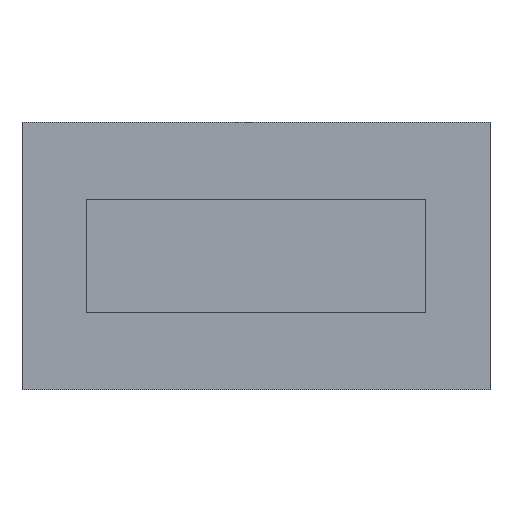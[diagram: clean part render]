
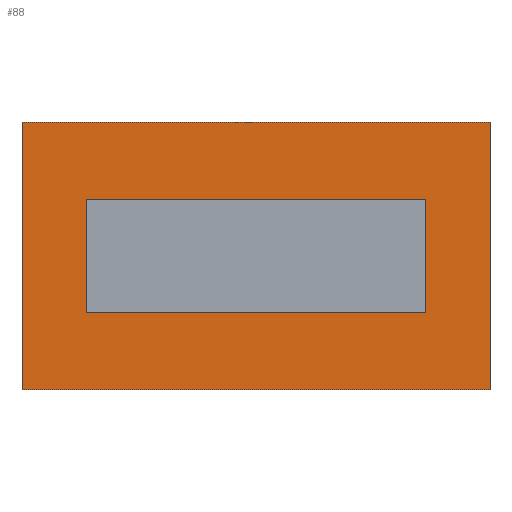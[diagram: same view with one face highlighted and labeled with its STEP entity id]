
A CAD part, top view. The second image highlights one B-rep face of the part: STEP entity #88.
In plain terms, the highlighted planar face has unit normal (0, 0, 1).
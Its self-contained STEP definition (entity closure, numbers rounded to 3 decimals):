
#24 = VERTEX_POINT('',#25);
#25 = CARTESIAN_POINT('',(-17.5,-10.,4.));
#40 = VERTEX_POINT('',#41);
#41 = CARTESIAN_POINT('',(-17.5,10.,4.));
#47 = EDGE_CURVE('',#24,#40,#48,.T.);
#48 = LINE('',#49,#50);
#49 = CARTESIAN_POINT('',(-17.5,-10.,4.));
#50 = VECTOR('',#51,1.);
#51 = DIRECTION('',(0.,1.,0.));
#70 = EDGE_CURVE('',#24,#71,#73,.T.);
#71 = VERTEX_POINT('',#72);
#72 = CARTESIAN_POINT('',(17.5,-10.,4.));
#73 = LINE('',#74,#75);
#74 = CARTESIAN_POINT('',(-17.5,-10.,4.));
#75 = VECTOR('',#76,1.);
#76 = DIRECTION('',(1.,0.,0.));
#88 = ADVANCED_FACE('',(#89,#107),#141,.T.);
#89 = FACE_BOUND('',#90,.T.);
#90 = EDGE_LOOP('',(#91,#92,#93,#101));
#91 = ORIENTED_EDGE('',*,*,#47,.F.);
#92 = ORIENTED_EDGE('',*,*,#70,.T.);
#93 = ORIENTED_EDGE('',*,*,#94,.T.);
#94 = EDGE_CURVE('',#71,#95,#97,.T.);
#95 = VERTEX_POINT('',#96);
#96 = CARTESIAN_POINT('',(17.5,10.,4.));
#97 = LINE('',#98,#99);
#98 = CARTESIAN_POINT('',(17.5,-10.,4.));
#99 = VECTOR('',#100,1.);
#100 = DIRECTION('',(0.,1.,0.));
#101 = ORIENTED_EDGE('',*,*,#102,.F.);
#102 = EDGE_CURVE('',#40,#95,#103,.T.);
#103 = LINE('',#104,#105);
#104 = CARTESIAN_POINT('',(-17.5,10.,4.));
#105 = VECTOR('',#106,1.);
#106 = DIRECTION('',(1.,0.,0.));
#107 = FACE_BOUND('',#108,.T.);
#108 = EDGE_LOOP('',(#109,#119,#127,#135));
#109 = ORIENTED_EDGE('',*,*,#110,.T.);
#110 = EDGE_CURVE('',#111,#113,#115,.T.);
#111 = VERTEX_POINT('',#112);
#112 = CARTESIAN_POINT('',(12.7,-4.2,4.));
#113 = VERTEX_POINT('',#114);
#114 = CARTESIAN_POINT('',(-12.7,-4.2,4.));
#115 = LINE('',#116,#117);
#116 = CARTESIAN_POINT('',(-15.1,-4.2,4.));
#117 = VECTOR('',#118,1.);
#118 = DIRECTION('',(-1.,0.,0.));
#119 = ORIENTED_EDGE('',*,*,#120,.T.);
#120 = EDGE_CURVE('',#113,#121,#123,.T.);
#121 = VERTEX_POINT('',#122);
#122 = CARTESIAN_POINT('',(-12.7,4.2,4.));
#123 = LINE('',#124,#125);
#124 = CARTESIAN_POINT('',(-12.7,-7.1,4.));
#125 = VECTOR('',#126,1.);
#126 = DIRECTION('',(0.,1.,0.));
#127 = ORIENTED_EDGE('',*,*,#128,.F.);
#128 = EDGE_CURVE('',#129,#121,#131,.T.);
#129 = VERTEX_POINT('',#130);
#130 = CARTESIAN_POINT('',(12.7,4.2,4.));
#131 = LINE('',#132,#133);
#132 = CARTESIAN_POINT('',(-15.1,4.2,4.));
#133 = VECTOR('',#134,1.);
#134 = DIRECTION('',(-1.,0.,0.));
#135 = ORIENTED_EDGE('',*,*,#136,.F.);
#136 = EDGE_CURVE('',#111,#129,#137,.T.);
#137 = LINE('',#138,#139);
#138 = CARTESIAN_POINT('',(12.7,-7.1,4.));
#139 = VECTOR('',#140,1.);
#140 = DIRECTION('',(0.,1.,0.));
#141 = PLANE('',#142);
#142 = AXIS2_PLACEMENT_3D('',#143,#144,#145);
#143 = CARTESIAN_POINT('',(-17.5,-10.,4.));
#144 = DIRECTION('',(0.,0.,1.));
#145 = DIRECTION('',(1.,0.,0.));
